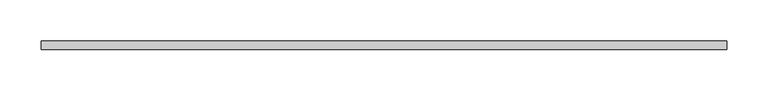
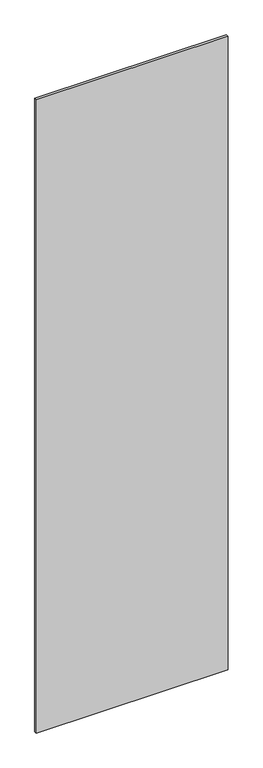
"""IFC4 building model written with IfcOpenShell, lengths in millimetres: plate geometry, システム パネル : 標準."""

from ifc_helpers import new_model, si_unit, origin, origin_with_axes, place, context, project, spatial, polyline, outline, extrude, source, transform, mapped, element, save


def plate_28587fd3(model_context):
    return source(origin(), model_context, "Body", "SweptSolid", [
        extrude(outline(polyline([(415.0, -5.0), (-415.0, -5.0), (-415.0, 5.0), (415.0, 5.0), (415.0, -5.0)])), origin_with_axes(), (0.0, 0.0, 1.0), 2895.0),
    ])


if __name__ == "__main__":
    model = new_model("IFC4")
    model_context = context("Model", 3, world=origin())
    ifc_project = project(units=[si_unit("LENGTHUNIT", "METRE", prefix="MILLI")], contexts=[model_context])
    site = spatial("IfcSite", under=ifc_project)
    building = spatial("IfcBuilding", under=site)
    placement = place(None, origin())
    plate_shape = plate_28587fd3(model_context)
    element("IfcPlate", 1, ObjectType="システム パネル : 標準", at=placement, inside=building, context=model_context, shape_type="MappedRepresentation", body=[
        mapped(plate_shape, transform((0.0, 0.0, 0.0), x_axis=(1.0, 0.0, 0.0), y_axis=(0.0, 1.0, 0.0), z_axis=(0.0, 0.0, 1.0))),
    ])
    save(model, "model.ifc")
